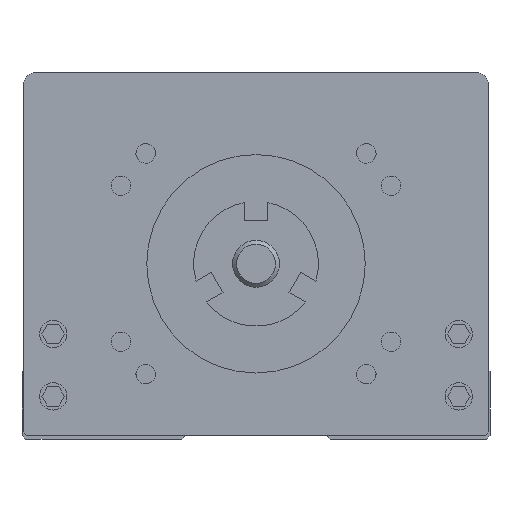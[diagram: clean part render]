
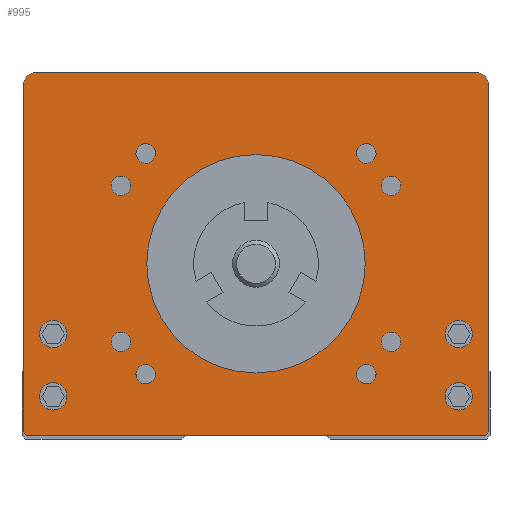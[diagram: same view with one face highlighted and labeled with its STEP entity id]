
A CAD part, front view. The second image highlights one B-rep face of the part: STEP entity #995.
In plain terms, the highlighted planar face has unit normal (0, -1, 0).
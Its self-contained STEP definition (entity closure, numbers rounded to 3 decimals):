
#656=FACE_BOUND('',#2260,.T.);
#657=FACE_BOUND('',#2261,.T.);
#658=FACE_BOUND('',#2262,.T.);
#659=FACE_BOUND('',#2263,.T.);
#660=FACE_BOUND('',#2264,.T.);
#661=FACE_BOUND('',#2265,.T.);
#662=FACE_BOUND('',#2266,.T.);
#663=FACE_BOUND('',#2267,.T.);
#664=FACE_BOUND('',#2268,.T.);
#665=FACE_BOUND('',#2269,.T.);
#666=FACE_BOUND('',#2270,.T.);
#667=FACE_BOUND('',#2271,.T.);
#668=FACE_BOUND('',#2272,.T.);
#669=FACE_BOUND('',#2273,.T.);
#995=ADVANCED_FACE('',(#656,#657,#658,#659,#660,#661,#662,#663,#664,#665,
#666,#667,#668,#669),#1500,.F.);
#1500=PLANE('',#9315);
#2260=EDGE_LOOP('',(#3564));
#2261=EDGE_LOOP('',(#3565));
#2262=EDGE_LOOP('',(#3566));
#2263=EDGE_LOOP('',(#3567));
#2264=EDGE_LOOP('',(#3568));
#2265=EDGE_LOOP('',(#3569));
#2266=EDGE_LOOP('',(#3570));
#2267=EDGE_LOOP('',(#3571));
#2268=EDGE_LOOP('',(#3572,#3573,#3574,#3575,#3576,#3577,#3578,#3579));
#2269=EDGE_LOOP('',(#3580));
#2270=EDGE_LOOP('',(#3581));
#2271=EDGE_LOOP('',(#3582));
#2272=EDGE_LOOP('',(#3583));
#2273=EDGE_LOOP('',(#3584));
#2963=CIRCLE('',#9298,1.25);
#2964=CIRCLE('',#9299,1.25);
#2965=CIRCLE('',#9300,1.25);
#2966=CIRCLE('',#9301,1.25);
#2967=CIRCLE('',#9302,1.25);
#2968=CIRCLE('',#9303,1.25);
#2969=CIRCLE('',#9304,1.25);
#2970=CIRCLE('',#9305,1.25);
#2971=CIRCLE('',#9306,0.5);
#2972=CIRCLE('',#9307,1.5);
#2973=CIRCLE('',#9308,1.5);
#2974=CIRCLE('',#9309,0.5);
#2975=CIRCLE('',#9310,1.75);
#2976=CIRCLE('',#9311,1.75);
#2977=CIRCLE('',#9312,1.75);
#2978=CIRCLE('',#9313,1.75);
#2979=CIRCLE('',#9314,14.);
#3564=ORIENTED_EDGE('',*,*,#6629,.F.);
#3565=ORIENTED_EDGE('',*,*,#6630,.F.);
#3566=ORIENTED_EDGE('',*,*,#6631,.F.);
#3567=ORIENTED_EDGE('',*,*,#6632,.F.);
#3568=ORIENTED_EDGE('',*,*,#6633,.F.);
#3569=ORIENTED_EDGE('',*,*,#6634,.F.);
#3570=ORIENTED_EDGE('',*,*,#6635,.F.);
#3571=ORIENTED_EDGE('',*,*,#6636,.F.);
#3572=ORIENTED_EDGE('',*,*,#6433,.T.);
#3573=ORIENTED_EDGE('',*,*,#6637,.T.);
#3574=ORIENTED_EDGE('',*,*,#6608,.T.);
#3575=ORIENTED_EDGE('',*,*,#6638,.T.);
#3576=ORIENTED_EDGE('',*,*,#6639,.F.);
#3577=ORIENTED_EDGE('',*,*,#6640,.T.);
#3578=ORIENTED_EDGE('',*,*,#6641,.T.);
#3579=ORIENTED_EDGE('',*,*,#6642,.T.);
#3580=ORIENTED_EDGE('',*,*,#6643,.F.);
#3581=ORIENTED_EDGE('',*,*,#6644,.F.);
#3582=ORIENTED_EDGE('',*,*,#6645,.F.);
#3583=ORIENTED_EDGE('',*,*,#6646,.F.);
#3584=ORIENTED_EDGE('',*,*,#6647,.F.);
#5620=VERTEX_POINT('',#12696);
#5621=VERTEX_POINT('',#12698);
#5753=VERTEX_POINT('',#13114);
#5754=VERTEX_POINT('',#13116);
#5774=VERTEX_POINT('',#13162);
#5775=VERTEX_POINT('',#13164);
#5776=VERTEX_POINT('',#13166);
#5777=VERTEX_POINT('',#13168);
#5778=VERTEX_POINT('',#13170);
#5779=VERTEX_POINT('',#13172);
#5780=VERTEX_POINT('',#13174);
#5781=VERTEX_POINT('',#13176);
#5782=VERTEX_POINT('',#13179);
#5783=VERTEX_POINT('',#13181);
#5784=VERTEX_POINT('',#13183);
#5785=VERTEX_POINT('',#13185);
#5786=VERTEX_POINT('',#13188);
#5787=VERTEX_POINT('',#13190);
#5788=VERTEX_POINT('',#13192);
#5789=VERTEX_POINT('',#13194);
#5790=VERTEX_POINT('',#13196);
#6433=EDGE_CURVE('',#5621,#5620,#7607,.T.);
#6608=EDGE_CURVE('',#5754,#5753,#7704,.T.);
#6629=EDGE_CURVE('',#5774,#5774,#2963,.T.);
#6630=EDGE_CURVE('',#5775,#5775,#2964,.T.);
#6631=EDGE_CURVE('',#5776,#5776,#2965,.T.);
#6632=EDGE_CURVE('',#5777,#5777,#2966,.T.);
#6633=EDGE_CURVE('',#5778,#5778,#2967,.T.);
#6634=EDGE_CURVE('',#5779,#5779,#2968,.T.);
#6635=EDGE_CURVE('',#5780,#5780,#2969,.T.);
#6636=EDGE_CURVE('',#5781,#5781,#2970,.T.);
#6637=EDGE_CURVE('',#5620,#5754,#2971,.T.);
#6638=EDGE_CURVE('',#5753,#5782,#2972,.T.);
#6639=EDGE_CURVE('',#5783,#5782,#7717,.T.);
#6640=EDGE_CURVE('',#5783,#5784,#2973,.T.);
#6641=EDGE_CURVE('',#5784,#5785,#7718,.T.);
#6642=EDGE_CURVE('',#5785,#5621,#2974,.T.);
#6643=EDGE_CURVE('',#5786,#5786,#2975,.T.);
#6644=EDGE_CURVE('',#5787,#5787,#2976,.T.);
#6645=EDGE_CURVE('',#5788,#5788,#2977,.T.);
#6646=EDGE_CURVE('',#5789,#5789,#2978,.T.);
#6647=EDGE_CURVE('',#5790,#5790,#2979,.T.);
#7607=LINE('',#12697,#8395);
#7704=LINE('',#13115,#8492);
#7717=LINE('',#13180,#8505);
#7718=LINE('',#13184,#8506);
#8395=VECTOR('',#10090,1.);
#8492=VECTOR('',#10419,1.);
#8505=VECTOR('',#10478,1.);
#8506=VECTOR('',#10481,1.);
#9298=AXIS2_PLACEMENT_3D('',#13161,#10458,#10459);
#9299=AXIS2_PLACEMENT_3D('',#13163,#10460,#10461);
#9300=AXIS2_PLACEMENT_3D('',#13165,#10462,#10463);
#9301=AXIS2_PLACEMENT_3D('',#13167,#10464,#10465);
#9302=AXIS2_PLACEMENT_3D('',#13169,#10466,#10467);
#9303=AXIS2_PLACEMENT_3D('',#13171,#10468,#10469);
#9304=AXIS2_PLACEMENT_3D('',#13173,#10470,#10471);
#9305=AXIS2_PLACEMENT_3D('',#13175,#10472,#10473);
#9306=AXIS2_PLACEMENT_3D('',#13177,#10474,#10475);
#9307=AXIS2_PLACEMENT_3D('',#13178,#10476,#10477);
#9308=AXIS2_PLACEMENT_3D('',#13182,#10479,#10480);
#9309=AXIS2_PLACEMENT_3D('',#13186,#10482,#10483);
#9310=AXIS2_PLACEMENT_3D('',#13187,#10484,#10485);
#9311=AXIS2_PLACEMENT_3D('',#13189,#10486,#10487);
#9312=AXIS2_PLACEMENT_3D('',#13191,#10488,#10489);
#9313=AXIS2_PLACEMENT_3D('',#13193,#10490,#10491);
#9314=AXIS2_PLACEMENT_3D('',#13195,#10492,#10493);
#9315=AXIS2_PLACEMENT_3D('',#13197,#10494,#10495);
#10090=DIRECTION('',(1.,0.,0.));
#10419=DIRECTION('',(0.,0.,1.));
#10458=DIRECTION('',(0.,-1.,0.));
#10459=DIRECTION('',(0.,0.,1.));
#10460=DIRECTION('',(0.,-1.,0.));
#10461=DIRECTION('',(0.,0.,1.));
#10462=DIRECTION('',(0.,-1.,0.));
#10463=DIRECTION('',(0.,0.,1.));
#10464=DIRECTION('',(0.,-1.,0.));
#10465=DIRECTION('',(0.,0.,1.));
#10466=DIRECTION('',(0.,-1.,0.));
#10467=DIRECTION('',(0.,0.,1.));
#10468=DIRECTION('',(0.,-1.,0.));
#10469=DIRECTION('',(0.,0.,1.));
#10470=DIRECTION('',(0.,-1.,0.));
#10471=DIRECTION('',(0.,0.,1.));
#10472=DIRECTION('',(0.,-1.,0.));
#10473=DIRECTION('',(0.,0.,1.));
#10474=DIRECTION('',(0.,-1.,0.));
#10475=DIRECTION('',(0.,0.,1.));
#10476=DIRECTION('',(0.,-1.,0.));
#10477=DIRECTION('',(1.,0.,0.));
#10478=DIRECTION('',(1.,0.,0.));
#10479=DIRECTION('',(0.,-1.,0.));
#10480=DIRECTION('',(0.,0.,1.));
#10481=DIRECTION('',(0.,0.,-1.));
#10482=DIRECTION('',(0.,-1.,0.));
#10483=DIRECTION('',(0.,0.,1.));
#10484=DIRECTION('',(0.,-1.,0.));
#10485=DIRECTION('',(-1.,0.,0.));
#10486=DIRECTION('',(0.,-1.,0.));
#10487=DIRECTION('',(-1.,0.,0.));
#10488=DIRECTION('',(0.,-1.,0.));
#10489=DIRECTION('',(-1.,0.,0.));
#10490=DIRECTION('',(0.,-1.,0.));
#10491=DIRECTION('',(-1.,0.,0.));
#10492=DIRECTION('',(0.,-1.,0.));
#10493=DIRECTION('',(-1.,0.,0.));
#10494=DIRECTION('',(0.,1.,0.));
#10495=DIRECTION('',(1.,0.,0.));
#12696=CARTESIAN_POINT('',(29.3,50.,0.));
#12697=CARTESIAN_POINT('',(-28.3,50.,0.));
#12698=CARTESIAN_POINT('',(-29.3,50.,0.));
#13114=CARTESIAN_POINT('',(29.8,50.,45.));
#13115=CARTESIAN_POINT('',(29.8,50.,1.5));
#13116=CARTESIAN_POINT('',(29.8,50.,0.5));
#13161=CARTESIAN_POINT('',(-14.142,50.,36.142));
#13162=CARTESIAN_POINT('',(-14.142,50.,37.392));
#13163=CARTESIAN_POINT('',(14.142,50.,36.142));
#13164=CARTESIAN_POINT('',(14.142,50.,37.392));
#13165=CARTESIAN_POINT('',(14.142,50.,7.858));
#13166=CARTESIAN_POINT('',(14.142,50.,9.108));
#13167=CARTESIAN_POINT('',(-14.142,50.,7.858));
#13168=CARTESIAN_POINT('',(-14.142,50.,9.108));
#13169=CARTESIAN_POINT('',(-17.321,50.,32.));
#13170=CARTESIAN_POINT('',(-17.321,50.,33.25));
#13171=CARTESIAN_POINT('',(17.321,50.,32.));
#13172=CARTESIAN_POINT('',(17.321,50.,33.25));
#13173=CARTESIAN_POINT('',(17.321,50.,12.));
#13174=CARTESIAN_POINT('',(17.321,50.,13.25));
#13175=CARTESIAN_POINT('',(-17.321,50.,12.));
#13176=CARTESIAN_POINT('',(-17.321,50.,13.25));
#13177=CARTESIAN_POINT('',(29.3,50.,0.5));
#13178=CARTESIAN_POINT('',(28.3,50.,45.));
#13179=CARTESIAN_POINT('',(28.3,50.,46.5));
#13180=CARTESIAN_POINT('',(-28.3,50.,46.5));
#13181=CARTESIAN_POINT('',(-28.3,50.,46.5));
#13182=CARTESIAN_POINT('',(-28.3,50.,45.));
#13183=CARTESIAN_POINT('',(-29.8,50.,45.));
#13184=CARTESIAN_POINT('',(-29.8,50.,42.5));
#13185=CARTESIAN_POINT('',(-29.8,50.,0.5));
#13186=CARTESIAN_POINT('',(-29.3,50.,0.5));
#13187=CARTESIAN_POINT('',(-26.,50.,13.));
#13188=CARTESIAN_POINT('',(-27.75,50.,13.));
#13189=CARTESIAN_POINT('',(-26.,50.,5.));
#13190=CARTESIAN_POINT('',(-27.75,50.,5.));
#13191=CARTESIAN_POINT('',(26.,50.,5.));
#13192=CARTESIAN_POINT('',(24.25,50.,5.));
#13193=CARTESIAN_POINT('',(26.,50.,13.));
#13194=CARTESIAN_POINT('',(24.25,50.,13.));
#13195=CARTESIAN_POINT('',(0.,50.,22.));
#13196=CARTESIAN_POINT('',(-14.,50.,22.));
#13197=CARTESIAN_POINT('',(0.,50.,-28.5));
